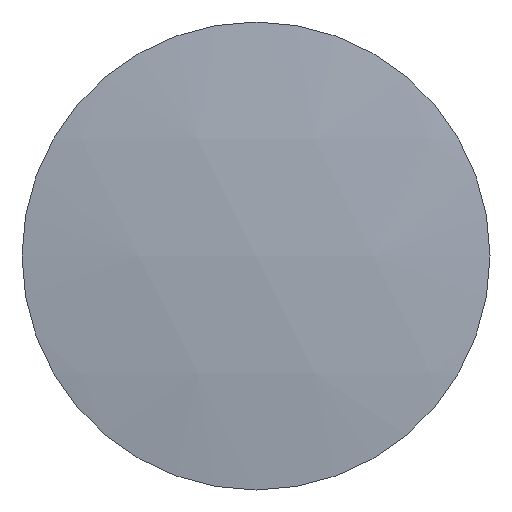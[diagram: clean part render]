
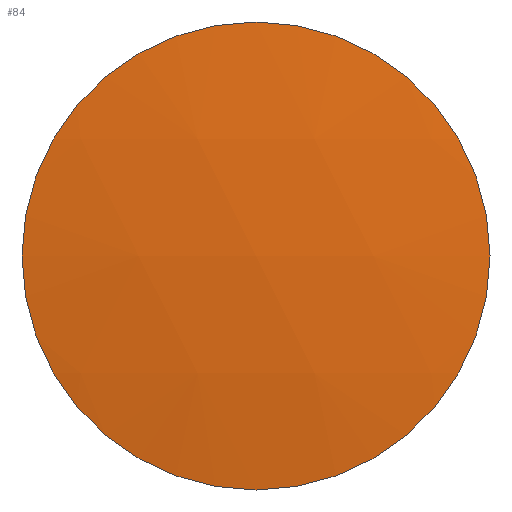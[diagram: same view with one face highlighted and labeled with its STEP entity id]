
A CAD part, front view. The second image highlights one B-rep face of the part: STEP entity #84.
In plain terms, the highlighted spherical face has radius 36.33 mm.
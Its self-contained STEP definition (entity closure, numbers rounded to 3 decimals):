
#68=CARTESIAN_POINT('',(0.0,34.03,0.0));
#69=DIRECTION('',(0.0,0.0,1.0));
#70=DIRECTION('',(1.0,0.0,0.0));
#71=AXIS2_PLACEMENT_3D('',#68,#69,#70);
#72=SPHERICAL_SURFACE('',#71,36.33);
#73=CARTESIAN_POINT('',(-5.,-1.954,0.0));
#74=VERTEX_POINT('',#73);
#75=CARTESIAN_POINT('',(0.0,-1.954,0.0));
#76=DIRECTION('',(0.0,1.0,0.0));
#77=DIRECTION('',(-1.0,0.0,0.0));
#78=AXIS2_PLACEMENT_3D('',#75,#76,#77);
#79=CIRCLE('',#78,5.);
#80=EDGE_CURVE('',#74,#74,#79,.T.);
#81=ORIENTED_EDGE('',*,*,#80,.F.);
#82=EDGE_LOOP('',(#81));
#83=FACE_OUTER_BOUND('',#82,.T.);
#84=ADVANCED_FACE('',(#83),#72,.T.);
